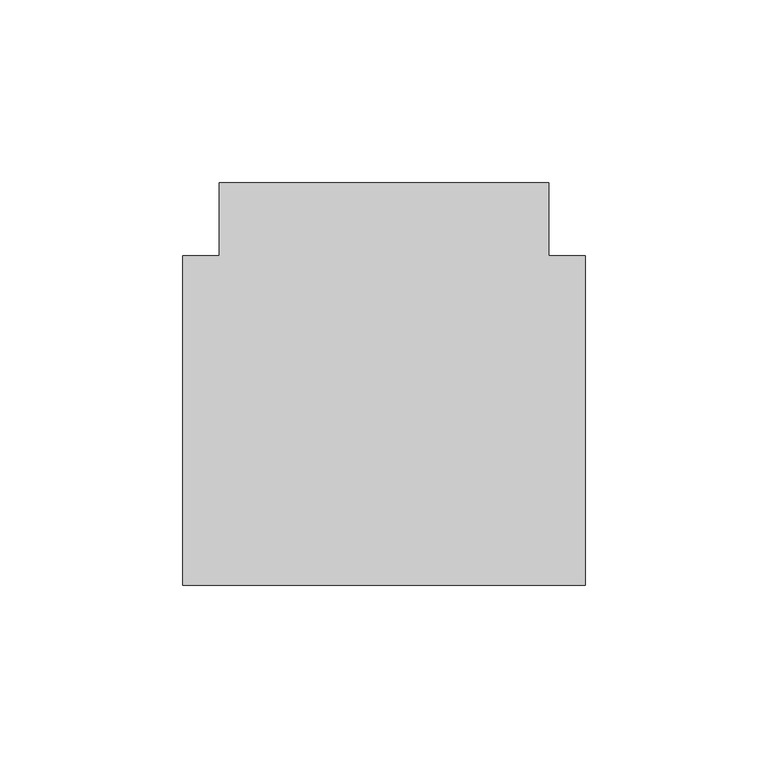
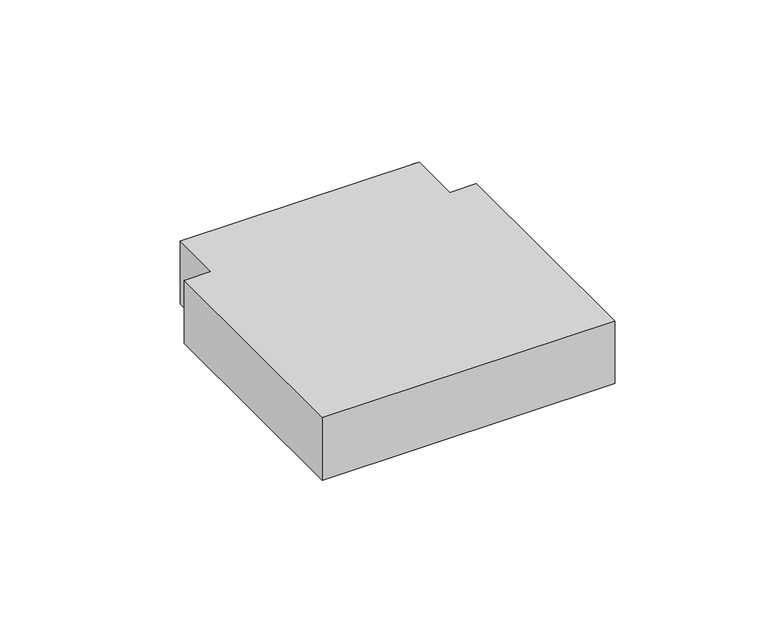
"""IFC4 building model written with IfcOpenShell, lengths in millimetres: cable carrier fitting geometry, КНС_Тройник_ILF_DKC : Белый."""

from ifc_helpers import new_model, si_unit, frame, origin, place, context, project, spatial, polyline, outline, extrude, faceted_brep, source, transform, mapped, element, save


def cable_carrier_fitting_3fa0959f(model_context):
    return source(origin(), model_context, "Body", "SolidModel", [
        extrude(outline(polyline([(-45.0, 45.0), (-45.0, 65.0), (45.0, 65.0), (45.0, 45.0), (55.0, 45.0), (55.0, -45.0), (-55.0, -45.0), (-55.0, 45.0), (-45.0, 45.0)])), frame((0.0, 0.0, -12.5), z_axis=(0.0, 0.0, 1.0), x_axis=(1.0, 0.0, 0.0)), (0.0, 0.0, 1.0), 25.0),
        faceted_brep([(55.0, -42.46, -9.96), (55.0, 42.46, -9.96), (42.46, 42.46, -9.96), (42.46, 65.0, -9.96), (-42.46, 65.0, -9.96), (-42.46, 42.46, -9.96), (-55.0, 42.46, -9.96), (-55.0, -42.46, -9.96), (55.0, -45.0, -12.5), (-55.0, -45.0, -12.5), (-55.0, 45.0, -12.5), (-45.0, 45.0, -12.5), (-45.0, 65.0, -12.5), (45.0, 65.0, -12.5), (45.0, 45.0, -12.5), (55.0, 45.0, -12.5), (55.0, 45.0, 12.5), (55.0, 42.46, 12.5), (55.0, -42.46, 12.5), (55.0, -45.0, 12.5), (44.96, 45.0, 12.5), (45.0, 65.0, 12.5), (-44.96, 65.0, 12.5), (-42.46, 65.0, 12.5), (42.46, 65.0, 12.5), (-45.0, 45.0, 12.5), (-55.0, 45.0, 12.5), (-55.0, -45.0, 12.5), (-55.0, -42.46, 12.5), (-55.0, 42.46, 12.5), (42.46, 42.46, 12.5), (-42.46, 42.46, 12.5)], [[[0, 1, 2, 3, 4, 5, 6, 7]], [[8, 9, 10, 11, 12, 13, 14, 15]], [[8, 15, 16, 17, 1, 0, 18, 19]], [[16, 15, 14, 20]], [[20, 14, 13, 21]], [[21, 13, 12, 22, 23, 4, 3, 24]], [[22, 12, 11, 25]], [[25, 11, 10, 26]], [[26, 10, 9, 27, 28, 7, 6, 29]], [[27, 9, 8, 19]], [[20, 21, 24, 30, 17, 16]], [[25, 26, 29, 31, 23, 22]], [[27, 19, 18, 28]], [[31, 29, 6, 5]], [[23, 31, 5, 4]], [[30, 24, 3, 2]], [[17, 30, 2, 1]], [[28, 18, 0, 7]]]),
    ])


if __name__ == "__main__":
    model = new_model("IFC4")
    model_context = context("Model", 3, world=origin())
    ifc_project = project(units=[si_unit("LENGTHUNIT", "METRE", prefix="MILLI")], contexts=[model_context])
    site = spatial("IfcSite", under=ifc_project)
    building = spatial("IfcBuilding", under=site)
    placement = place(None, origin())
    cable_carrier_fitting_shape = cable_carrier_fitting_3fa0959f(model_context)
    element("IfcCableCarrierFitting", 1, ObjectType="КНС_Тройник_ILF_DKC : Белый", at=placement, inside=building, context=model_context, shape_type="MappedRepresentation", body=[
        mapped(cable_carrier_fitting_shape, transform((0.0, 0.0, 0.0), x_axis=(1.0, 0.0, 0.0), y_axis=(0.0, 1.0, 0.0), z_axis=(0.0, 0.0, 1.0))),
    ])
    save(model, "model.ifc")
